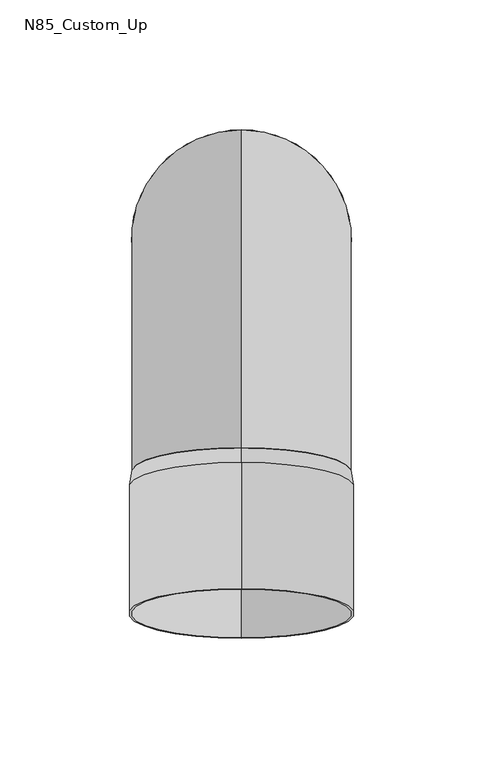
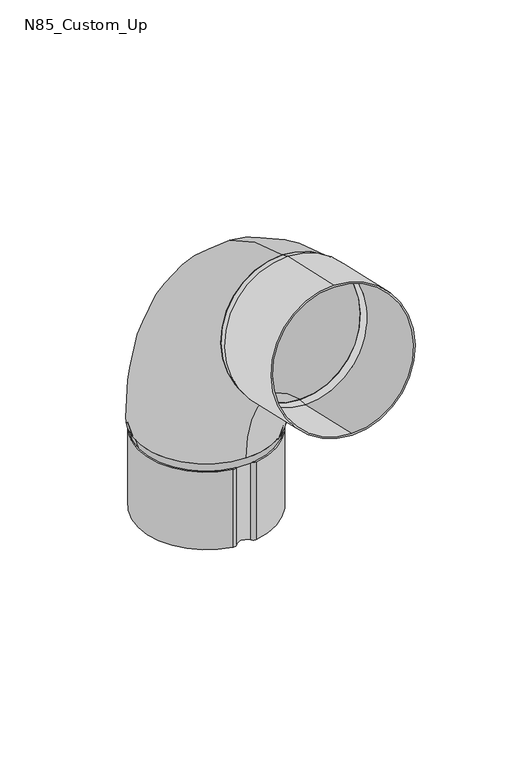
"""IFC4 building model written with IfcOpenShell, lengths in millimetres: proxy geometry, GROVIK_Downpipe_Elbow : N85_Custom_Up."""

from ifc_helpers import new_model, si_unit, point, frame, frame_2d, origin, origin_with_axes, origin_2d, place, context, project, spatial, polyline, circle_curve, ellipse_curve, trimmed, segment, composite_curve, outline, extrude, source, transform, mapped, element, save
from ifc_brep_helpers import plane_surface, revolved_surface, advanced_brep


def n85_custom_up_c0439c3e(model_context):
    return source(origin(), model_context, "Body", "SolidModel", [
        advanced_brep(
        [(0.0, 42.5, 0.0), (0.0, -42.5, 0.0), (0.0, 41.5, 0.0), (0.0, -41.5, 0.0), (0.0, -80.3474069, 153.640645), (0.0, -99.0488064, 70.7234715), (0.0, -80.5674234, 152.6651488), (0.0, -98.8287899, 71.6989677)],
        [
            (0, 1, circle_curve(frame((0.0, 0.0, 0.0), z_axis=(0.0, 0.0, -1.0), x_axis=(0.0, -1.0, 0.0)), 42.5)),
            (1, 0, circle_curve(frame((0.0, 0.0, 0.0), z_axis=(0.0, 0.0, -1.0), x_axis=(0.0, -1.0, 0.0)), 42.5)),
            (2, 3, circle_curve(frame((0.0, 0.0, 0.0), z_axis=(0.0, 0.0, 1.0), x_axis=(0.0, -1.0, 0.0)), 41.5)),
            (3, 2, circle_curve(frame((0.0, 0.0, 0.0), z_axis=(0.0, 0.0, 1.0), x_axis=(0.0, -1.0, 0.0)), 41.5)),
            (4, 5, circle_curve(frame((0.0, -89.6981067, 112.1820582), z_axis=(0.0, -0.9754961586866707, 0.22001646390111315), x_axis=(0.0, -0.22001646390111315, -0.9754961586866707)), 42.5)),
            (5, 4, circle_curve(frame((0.0, -89.6981067, 112.1820582), z_axis=(0.0, -0.9754961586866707, 0.22001646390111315), x_axis=(0.0, -0.22001646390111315, -0.9754961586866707)), 42.5)),
            (6, 7, circle_curve(frame((0.0, -89.6981067, 112.1820582), z_axis=(0.0, 0.9754961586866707, -0.22001646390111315), x_axis=(0.0, -0.22001646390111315, -0.9754961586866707)), 41.5)),
            (7, 6, circle_curve(frame((0.0, -89.6981067, 112.1820582), z_axis=(0.0, 0.9754961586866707, -0.22001646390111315), x_axis=(0.0, -0.22001646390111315, -0.9754961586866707)), 41.5)),
            (7, 3, circle_curve(frame((0.0, -115.0, 0.0), z_axis=(-1.0, 0.0, 0.0), x_axis=(0.0, 1.0, 0.0)), 73.5)),
            (2, 6, circle_curve(frame((0.0, -115.0, 0.0), z_axis=(1.0, 0.0, 0.0), x_axis=(0.0, 1.0, 0.0)), 156.5)),
            (5, 1, circle_curve(frame((0.0, -115.0, 0.0), z_axis=(-1.0, 0.0, 0.0), x_axis=(0.0, 1.0, 0.0)), 72.5)),
            (0, 4, circle_curve(frame((0.0, -115.0, 0.0), z_axis=(1.0, 0.0, 0.0), x_axis=(0.0, 1.0, 0.0)), 157.5)),
        ],
        [
            plane_surface(frame((0.0, 0.0, 0.0), z_axis=(0.0, 0.0, -1.0), x_axis=(1.0, 0.0, 0.0))),
            plane_surface(frame((0.0, -89.6981067, 112.1820582), z_axis=(0.0, -0.9754961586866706, 0.22001646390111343), x_axis=(1.0, 0.0, 0.0))),
            revolved_surface(trimmed(ellipse_curve(frame((0.0, 0.0, 0.0), z_axis=(0.0, 0.0, 1.0), x_axis=(0.0, -1.0, 0.0)), 41.5, 41.5), [point((0.0, 41.5, 0.0))], [point((0.0, -41.5, 0.0))], True, "CARTESIAN"), (0.0, -115.0, 0.0), (1.0, 0.0, 0.0)),
            revolved_surface(trimmed(ellipse_curve(frame((0.0, 0.0, 0.0), z_axis=(0.0, 0.0, 1.0), x_axis=(0.0, -1.0, 0.0)), 41.5, 41.5), [point((0.0, -41.5, 0.0))], [point((0.0, 41.5, 0.0))], True, "CARTESIAN"), (0.0, -115.0, 0.0), (1.0, 0.0, 0.0)),
            revolved_surface(trimmed(ellipse_curve(frame((0.0, 0.0, 0.0), z_axis=(0.0, 0.0, -1.0), x_axis=(0.0, -1.0, 0.0)), 42.5, 42.5), [point((0.0, 42.5, 0.0))], [point((0.0, -42.5, 0.0))], True, "CARTESIAN"), (0.0, -115.0, 0.0), (1.0, 0.0, 0.0)),
            revolved_surface(trimmed(ellipse_curve(frame((0.0, 0.0, 0.0), z_axis=(0.0, 0.0, -1.0), x_axis=(0.0, -1.0, 0.0)), 42.5, 42.5), [point((0.0, -42.5, 0.0))], [point((0.0, 42.5, 0.0))], True, "CARTESIAN"), (0.0, -115.0, 0.0), (1.0, 0.0, 0.0)),
        ],
        [
            (0, [[1, 2], [3, 4]]),
            (1, [[5, 6], [7, 8]]),
            (2, [[9, -3, 10, -8]]),
            (3, [[-10, -4, -9, -7]]),
            (4, [[11, -1, 12, -6]]),
            (5, [[-12, -2, -11, -5]]),
        ],
    ),
        extrude(outline(composite_curve([segment(trimmed(circle_curve(origin_2d(), 43.5), [point((0.0, -43.5))], [point((0.0, 43.5))], False, "CARTESIAN"), True, "CONTINUOUS"), segment(trimmed(circle_curve(origin_2d(), 43.5), [point((0.0, 43.5))], [point((0.0, -43.5))], False, "CARTESIAN"), True, "CONTINUOUS")], self_intersect=False), holes=[composite_curve([segment(trimmed(circle_curve(origin_2d(), 42.5), [point((0.0, -42.5))], [point((0.0, 42.5000001))], True, "CARTESIAN"), True, "CONTINUOUS"), segment(trimmed(circle_curve(origin_2d(), 42.5), [point((0.0, 42.5000001))], [point((0.0, -42.5))], True, "CARTESIAN"), True, "CONTINUOUS")], self_intersect=False)]), frame((0.0, -95.5510836, 113.502157), z_axis=(0.0, -0.975496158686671, 0.22001646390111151), x_axis=(1.0, 0.0, 0.0)), (0.0, 0.0, 1.0), 50.0),
        extrude(outline(composite_curve([segment(trimmed(circle_curve(frame_2d((-6.6504209, 37.8351931)), 3.0848069), [point((-7.1689075, 40.8761148))], [point((-4.2037022, 39.7139163))], False, "CARTESIAN"), True, "CONTINUOUS"), segment(trimmed(circle_curve(frame_2d((0.0, 42.9417465)), 5.3), [point((-4.2037022, 39.7139163))], [point((4.2058428, 39.716706))], True, "CARTESIAN"), True, "CONTINUOUS"), segment(trimmed(circle_curve(frame_2d((6.6465812, 37.8451476)), 3.0757007), [point((4.2058428, 39.716706))], [point((7.2, 40.8706496))], False, "CARTESIAN"), True, "CONTINUOUS"), segment(trimmed(circle_curve(origin_2d(), 41.5), [point((7.2, 40.8706496))], [point((7.2, -40.8706496))], False, "CARTESIAN"), True, "CONTINUOUS"), segment(trimmed(circle_curve(frame_2d((6.6465812, -37.8451476)), 3.0757007), [point((7.2, -40.8706496))], [point((4.2058428, -39.716706))], False, "CARTESIAN"), True, "CONTINUOUS"), segment(trimmed(circle_curve(frame_2d((0.0, -42.9417465)), 5.3), [point((4.2058428, -39.716706))], [point((-4.2037022, -39.7139163))], True, "CARTESIAN"), True, "CONTINUOUS"), segment(trimmed(circle_curve(frame_2d((-6.6504209, -37.8351931)), 3.0848069), [point((-4.2037022, -39.7139163))], [point((-7.1689075, -40.8761148))], False, "CARTESIAN"), True, "CONTINUOUS"), segment(trimmed(circle_curve(origin_2d(), 41.5), [point((-7.1689075, -40.8761148))], [point((-7.1689075, 40.8761148))], False, "CARTESIAN"), True, "CONTINUOUS")], self_intersect=False), holes=[composite_curve([segment(trimmed(circle_curve(origin_2d(), 40.5), [point((-6.9987091, 39.8907016))], [point((-6.9987091, -39.8907016))], True, "CARTESIAN"), True, "CONTINUOUS"), segment(trimmed(circle_curve(frame_2d((-6.6504209, -37.8351931)), 2.0848069), [point((-6.9987091, -39.8907016))], [point((-4.9968535, -39.1048917))], True, "CARTESIAN"), True, "CONTINUOUS"), segment(trimmed(circle_curve(frame_2d((0.0, -42.9417465)), 6.3), [point((-4.9968535, -39.1048917))], [point((4.999398, -39.1082078))], False, "CARTESIAN"), True, "CONTINUOUS"), segment(trimmed(circle_curve(frame_2d((6.6465812, -37.8451476)), 2.0757007), [point((4.999398, -39.1082078))], [point((6.9882501, -39.8925351))], True, "CARTESIAN"), True, "CONTINUOUS"), segment(trimmed(circle_curve(origin_2d(), 40.5), [point((6.9882501, -39.8925351))], [point((7.0229886, 39.8864342))], True, "CARTESIAN"), True, "CONTINUOUS"), segment(trimmed(circle_curve(frame_2d((6.6465812, 37.8451476)), 2.0757007), [point((7.0229886, 39.8864342))], [point((4.999398, 39.1082078))], True, "CARTESIAN"), True, "CONTINUOUS"), segment(trimmed(circle_curve(frame_2d((0.0, 42.9417465)), 6.3), [point((4.999398, 39.1082078))], [point((-4.9968535, 39.1048917))], False, "CARTESIAN"), True, "CONTINUOUS"), segment(trimmed(circle_curve(frame_2d((-6.6504209, 37.8351931)), 2.0848069), [point((-4.9968535, 39.1048917))], [point((-6.9987091, 39.8907016))], True, "CARTESIAN"), True, "CONTINUOUS")], self_intersect=False)]), frame((0.0, 0.0, -56.0), z_axis=(0.0, 0.0, 1.0), x_axis=(1.0, 0.0, 0.0)), (0.0, 0.0, 1.0), 50.0),
        advanced_brep(
        [(-40.7, 0.0, -6.0), (40.7, 0.0, -6.0), (-39.7, 0.0, -6.0), (39.7, 0.0, -6.0), (-42.5, 0.0, 0.0), (42.5, 0.0, 0.0), (41.5, 0.0, 0.0), (-41.5, 0.0, 0.0)],
        [
            (0, 1, circle_curve(frame((0.0, 0.0, -6.0), z_axis=(0.0, 0.0, -1.0), x_axis=(-1.0, 0.0, 0.0)), 40.7)),
            (1, 0, circle_curve(frame((0.0, 0.0, -6.0), z_axis=(0.0, 0.0, -1.0), x_axis=(1.0, 0.0, 0.0)), 40.7)),
            (2, 3, circle_curve(frame((0.0, 0.0, -6.0), z_axis=(0.0, 0.0, 1.0), x_axis=(1.0, 0.0, 0.0)), 39.7)),
            (3, 2, circle_curve(frame((0.0, 0.0, -6.0), z_axis=(0.0, 0.0, 1.0), x_axis=(-1.0, 0.0, 0.0)), 39.7)),
            (4, 5, circle_curve(origin_with_axes(), 42.5)),
            (5, 4, circle_curve(frame((0.0, 0.0, 0.0), z_axis=(0.0, 0.0, 1.0), x_axis=(-1.0, 0.0, 0.0)), 42.5)),
            (6, 7, circle_curve(frame((0.0, 0.0, 0.0), z_axis=(0.0, 0.0, -1.0), x_axis=(1.0, 0.0, 0.0)), 41.5)),
            (7, 6, circle_curve(frame((0.0, 0.0, 0.0), z_axis=(0.0, 0.0, -1.0), x_axis=(-1.0, 0.0, 0.0)), 41.5)),
            (1, 5),
            (4, 0),
            (6, 3),
            (2, 7),
        ],
        [
            plane_surface(frame((0.0, 0.0, -6.0), z_axis=(0.0, 0.0, -1.0), x_axis=(0.0, 1.0, 0.0))),
            plane_surface(frame((0.0, 0.0, 0.0), z_axis=(0.0, 0.0, 1.0), x_axis=(0.0, 1.0, 0.0))),
            revolved_surface(polyline([(40.70000000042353, 0.0, -6.0), (42.5, 0.0, 0.0)]), (0.0, 0.0, -141.6666667), (0.0, 0.0, 1.0)),
            revolved_surface(polyline([(-40.70000000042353, 0.0, -6.0), (-42.5, 0.0, 0.0)]), (0.0, 0.0, -141.6666667), (0.0, 0.0, 1.0)),
            revolved_surface(polyline([(41.5, 0.0, 0.0), (39.699999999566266, 0.0, -6.0)]), (0.0, 0.0, -138.3333333), (0.0, 0.0, 1.0)),
        ],
        [
            (0, [[1, 2], [3, 4]]),
            (1, [[5, 6], [7, 8]]),
            (2, [[-2, 9, -5, 10]]),
            (3, [[-1, -10, -6, -9]]),
            (4, [[11, -3, 12, -7]]),
            (4, [[-11, -8, -12, -4]]),
        ],
    ),
        advanced_brep(
        [(0.0, -99.0488064, 70.7234715), (0.0, -80.3474069, 153.640645), (0.0, -98.8287899, 71.6989677), (0.0, -80.5674234, 152.6651488), (0.0, -105.1217998, 71.0680741), (0.0, -85.9803674, 155.9362399), (0.0, -86.2003839, 154.9607438), (0.0, -104.9017833, 72.0435703)],
        [
            (0, 1, circle_curve(frame((0.0, -89.6981067, 112.1820582), z_axis=(0.0, 0.9754961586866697, -0.22001646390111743), x_axis=(0.0, -0.22001646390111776, -0.9754961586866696)), 42.5)),
            (1, 0, circle_curve(frame((0.0, -89.6981067, 112.1820582), z_axis=(0.0, 0.9754961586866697, -0.22001646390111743), x_axis=(0.0, 0.22001646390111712, 0.9754961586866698)), 42.5)),
            (2, 3, circle_curve(frame((0.0, -89.6981067, 112.1820582), z_axis=(0.0, -0.9754961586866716, 0.2200164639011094), x_axis=(0.0, 0.22001646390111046, 0.9754961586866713)), 41.5)),
            (3, 2, circle_curve(frame((0.0, -89.6981067, 112.1820582), z_axis=(0.0, -0.9754961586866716, 0.2200164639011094), x_axis=(0.0, -0.22001646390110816, -0.9754961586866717)), 41.5)),
            (4, 5, circle_curve(frame((0.0, -95.5510836, 113.502157), z_axis=(0.0, -0.9754961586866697, 0.22001646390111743), x_axis=(0.0, 0.22001646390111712, 0.9754961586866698)), 43.5)),
            (5, 4, circle_curve(frame((0.0, -95.5510836, 113.502157), z_axis=(0.0, -0.9754961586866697, 0.22001646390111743), x_axis=(0.0, -0.22001646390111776, -0.9754961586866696)), 43.5)),
            (6, 7, circle_curve(frame((0.0, -95.5510836, 113.502157), z_axis=(0.0, 0.9754961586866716, -0.2200164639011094), x_axis=(0.0, 0.22001646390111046, 0.9754961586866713)), 42.5)),
            (7, 6, circle_curve(frame((0.0, -95.5510836, 113.502157), z_axis=(0.0, 0.9754961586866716, -0.2200164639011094), x_axis=(0.0, -0.22001646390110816, -0.9754961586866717)), 42.5)),
            (1, 5),
            (4, 0),
            (6, 3),
            (2, 7),
        ],
        [
            plane_surface(frame((0.0, -89.6981067, 112.1820582), z_axis=(0.0, 0.9754961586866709, -0.2200164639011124), x_axis=(-1.0, 0.0, 0.0))),
            plane_surface(frame((0.0, -95.5510836, 113.502157), z_axis=(0.0, -0.9754961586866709, 0.2200164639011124), x_axis=(-1.0, 0.0, 0.0))),
            revolved_surface(polyline([(0.0, -80.34740690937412, 153.6406449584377), (0.0, -85.98036743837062, 155.93623991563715)]), (0.0, 159.0534138, 56.07786), (0.0, -0.9754961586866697, 0.22001646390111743)),
            revolved_surface(polyline([(0.0, -99.04880633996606, 70.72347147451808), (0.0, -105.12179980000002, 71.0680741)]), (0.0, 159.0534138, 56.07786), (0.0, -0.9754961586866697, 0.22001646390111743)),
            revolved_surface(polyline([(0.0, -86.20038390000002, 154.9607438), (0.0, -80.56742338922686, 152.66514884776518)]), (0.0, 153.2004369, 57.3979587), (0.0, -0.9754961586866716, 0.2200164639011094)),
        ],
        [
            (0, [[1, 2], [3, 4]]),
            (1, [[5, 6], [7, 8]]),
            (2, [[-2, 9, -5, 10]]),
            (3, [[-1, -10, -6, -9]]),
            (4, [[11, -3, 12, -7]]),
            (4, [[-11, -8, -12, -4]]),
        ],
    ),
    ])


if __name__ == "__main__":
    model = new_model("IFC4")
    model_context = context("Model", 3, world=origin())
    ifc_project = project(units=[si_unit("LENGTHUNIT", "METRE", prefix="MILLI")], contexts=[model_context])
    site = spatial("IfcSite", under=ifc_project)
    building = spatial("IfcBuilding", under=site)
    placement = place(None, origin())
    n85_custom_up_shape = n85_custom_up_c0439c3e(model_context)
    element("IfcBuildingElementProxy", 1, Name="GROVIK_Downpipe_Elbow : N85_Custom_Up", ObjectType="GROVIK_Downpipe_Elbow : N85_Custom_Up", at=placement, inside=building, context=model_context, shape_type="MappedRepresentation", body=[
        mapped(n85_custom_up_shape, transform((0.0, 0.0, 0.0), x_axis=(1.0, 0.0, 0.0), y_axis=(0.0, 1.0, 0.0), z_axis=(0.0, 0.0, 1.0))),
    ])
    save(model, "model.ifc")
